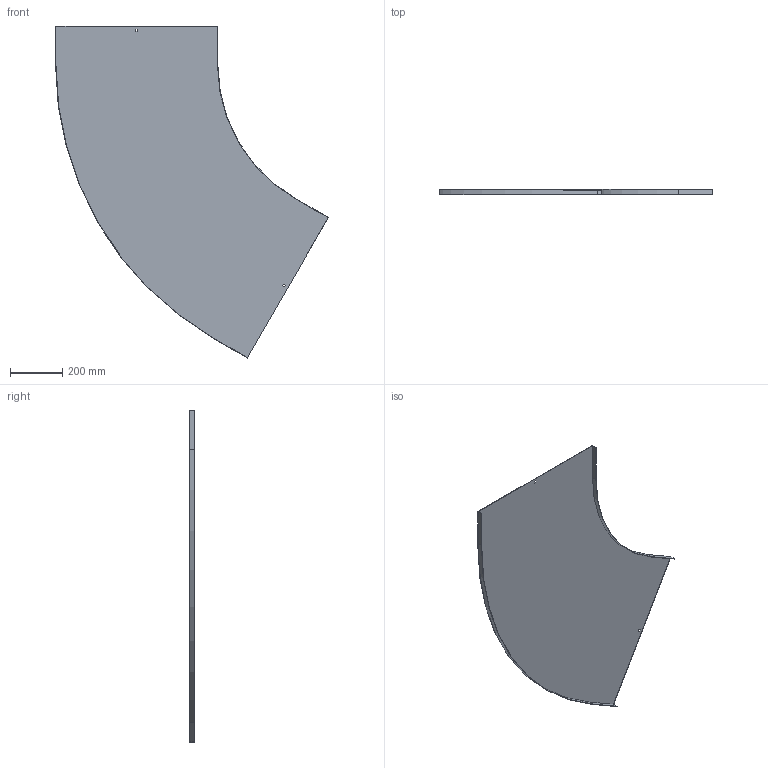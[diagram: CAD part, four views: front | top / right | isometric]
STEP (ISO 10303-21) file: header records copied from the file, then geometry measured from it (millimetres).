
FILE_DESCRIPTION (( 'STEP AP214' ), '1' );
FILE_NAME ('13N6P600.step', '2025-02-21T13:36:13', ( '' ), ( '' ), 'SwSTEP 2.0', 'SolidWorks 2023', '' );
FILE_SCHEMA (( 'AUTOMOTIVE_DESIGN' ));
Length unit declared in the file: millimetre
Products named in the file (1): 13N6P600
Bounding box: 1047.15 x 20 x 1274.19 mm (x, y, z)
Volume: 1229877.5 mm3; surface area: 1645637.1 mm2
Topology: 1 solids, 1 shells, 26 faces, 72 edges, 48 vertices
Faces by surface type: plane 22, cylinder 4
Entity records: 855 total; most frequent: CARTESIAN_POINT 147, ORIENTED_EDGE 144, DIRECTION 134, EDGE_CURVE 72, VECTOR 64, LINE 64, VERTEX_POINT 48, AXIS2_PLACEMENT_3D 35
